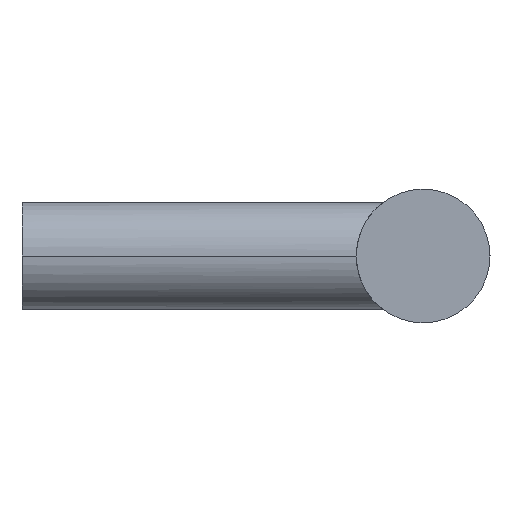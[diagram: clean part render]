
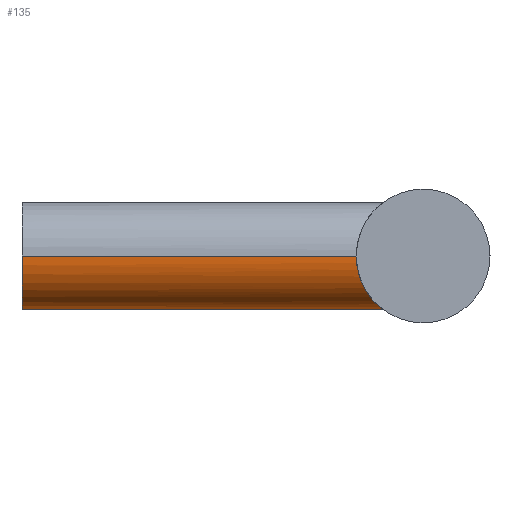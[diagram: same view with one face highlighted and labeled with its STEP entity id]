
A CAD part, left-side view. The second image highlights one B-rep face of the part: STEP entity #135.
In plain terms, the highlighted cylindrical face has radius 4 mm (diameter 8 mm), a partial arc.
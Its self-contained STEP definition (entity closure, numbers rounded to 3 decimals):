
#101 = VERTEX_POINT( '', #259 );
#121 = EDGE_CURVE( '', #143, #101, #282, .T. );
#127 = EDGE_CURVE( '', #197, #101, #288, .T. );
#135 = ADVANCED_FACE( '', ( #297 ), #298, .T. );
#141 = EDGE_CURVE( '', #197, #223, #306, .T. );
#143 = VERTEX_POINT( '', #308 );
#197 = VERTEX_POINT( '', #369 );
#223 = VERTEX_POINT( '', #401 );
#233 = EDGE_CURVE( '', #143, #223, #411, .T. );
#259 = CARTESIAN_POINT( '', ( 4., -25., 0. ) );
#282 = LINE( '', #477, #478 );
#288 = B_SPLINE_CURVE_WITH_KNOTS( '', 3, ( #487, #488, #489, #490, #491, #492, #493, #494, #495, #496, #497, #498, #499, #500, #501, #502, #503, #504, #505, #506, #507, #508, #509, #510, #511, #512, #513, #514, #515, #516, #517, #518, #519, #520 ), .UNSPECIFIED., .F., .F., ( 4, 2, 2, 2, 2, 2, 2, 2, 2, 2, 2, 2, 2, 2, 2, 2, 4 ), ( 6.46, 7.255, 8.05, 8.845, 9.639, 10.46, 11.28, 12.1, 12.921, 13.741, 14.561, 15.381, 16.202, 16.997, 17.791, 18.586, 19.381 ), .UNSPECIFIED. );
#297 = FACE_OUTER_BOUND( '', #548, .T. );
#298 = CYLINDRICAL_SURFACE( '', #549, 4. );
#306 = LINE( '', #558, #559 );
#308 = CARTESIAN_POINT( '', ( 4., 0., 0. ) );
#369 = CARTESIAN_POINT( '', ( -4., -25., 0. ) );
#401 = CARTESIAN_POINT( '', ( -4., 0., 0. ) );
#411 = CIRCLE( '', #753, 4. );
#477 = CARTESIAN_POINT( '', ( 4., 0., 0. ) );
#478 = VECTOR( '', #794, 1. );
#487 = CARTESIAN_POINT( '', ( -4., -25., 0. ) );
#488 = CARTESIAN_POINT( '', ( -4., -25., -0.265 ) );
#489 = CARTESIAN_POINT( '', ( -3.973, -25.021, -0.535 ) );
#490 = CARTESIAN_POINT( '', ( -3.865, -25.107, -1.064 ) );
#491 = CARTESIAN_POINT( '', ( -3.784, -25.171, -1.323 ) );
#492 = CARTESIAN_POINT( '', ( -3.575, -25.333, -1.813 ) );
#493 = CARTESIAN_POINT( '', ( -3.447, -25.431, -2.045 ) );
#494 = CARTESIAN_POINT( '', ( -3.158, -25.645, -2.468 ) );
#495 = CARTESIAN_POINT( '', ( -2.997, -25.761, -2.66 ) );
#496 = CARTESIAN_POINT( '', ( -2.654, -25.996, -3.002 ) );
#497 = CARTESIAN_POINT( '', ( -2.459, -26.124, -3.165 ) );
#498 = CARTESIAN_POINT( '', ( -2.035, -26.379, -3.453 ) );
#499 = CARTESIAN_POINT( '', ( -1.807, -26.505, -3.578 ) );
#500 = CARTESIAN_POINT( '', ( -1.324, -26.728, -3.784 ) );
#501 = CARTESIAN_POINT( '', ( -1.07, -26.825, -3.864 ) );
#502 = CARTESIAN_POINT( '', ( -0.545, -26.962, -3.972 ) );
#503 = CARTESIAN_POINT( '', ( -0.273, -27., -4. ) );
#504 = CARTESIAN_POINT( '', ( 0.273, -27., -4. ) );
#505 = CARTESIAN_POINT( '', ( 0.545, -26.962, -3.972 ) );
#506 = CARTESIAN_POINT( '', ( 1.07, -26.825, -3.864 ) );
#507 = CARTESIAN_POINT( '', ( 1.324, -26.728, -3.784 ) );
#508 = CARTESIAN_POINT( '', ( 1.807, -26.505, -3.578 ) );
#509 = CARTESIAN_POINT( '', ( 2.035, -26.379, -3.453 ) );
#510 = CARTESIAN_POINT( '', ( 2.459, -26.124, -3.165 ) );
#511 = CARTESIAN_POINT( '', ( 2.654, -25.996, -3.002 ) );
#512 = CARTESIAN_POINT( '', ( 2.997, -25.761, -2.66 ) );
#513 = CARTESIAN_POINT( '', ( 3.158, -25.645, -2.468 ) );
#514 = CARTESIAN_POINT( '', ( 3.447, -25.431, -2.045 ) );
#515 = CARTESIAN_POINT( '', ( 3.575, -25.333, -1.813 ) );
#516 = CARTESIAN_POINT( '', ( 3.784, -25.171, -1.323 ) );
#517 = CARTESIAN_POINT( '', ( 3.865, -25.107, -1.064 ) );
#518 = CARTESIAN_POINT( '', ( 3.973, -25.021, -0.535 ) );
#519 = CARTESIAN_POINT( '', ( 4., -25., -0.265 ) );
#520 = CARTESIAN_POINT( '', ( 4., -25., 0. ) );
#548 = EDGE_LOOP( '', ( #808, #809, #810, #811 ) );
#549 = AXIS2_PLACEMENT_3D( '', #812, #813, #814 );
#558 = CARTESIAN_POINT( '', ( -4., 0., 0. ) );
#559 = VECTOR( '', #829, 1. );
#753 = AXIS2_PLACEMENT_3D( '', #939, #940, #941 );
#794 = DIRECTION( '', ( 0., -1., 0. ) );
#808 = ORIENTED_EDGE( '', *, *, #121, .T. );
#809 = ORIENTED_EDGE( '', *, *, #127, .F. );
#810 = ORIENTED_EDGE( '', *, *, #141, .T. );
#811 = ORIENTED_EDGE( '', *, *, #233, .F. );
#812 = CARTESIAN_POINT( '', ( 0., 0., 0. ) );
#813 = DIRECTION( '', ( 0., 1., 0. ) );
#814 = DIRECTION( '', ( 1., 0., 0. ) );
#829 = DIRECTION( '', ( 0., 1., 0. ) );
#939 = CARTESIAN_POINT( '', ( 0., 0., 0. ) );
#940 = DIRECTION( '', ( 0., 1., 0. ) );
#941 = DIRECTION( '', ( 1., 0., 0. ) );
